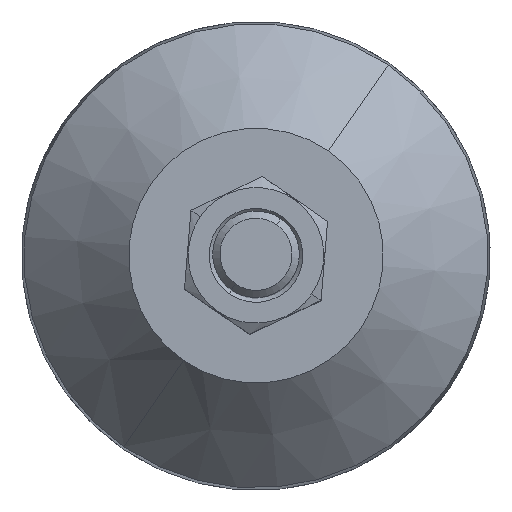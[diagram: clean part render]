
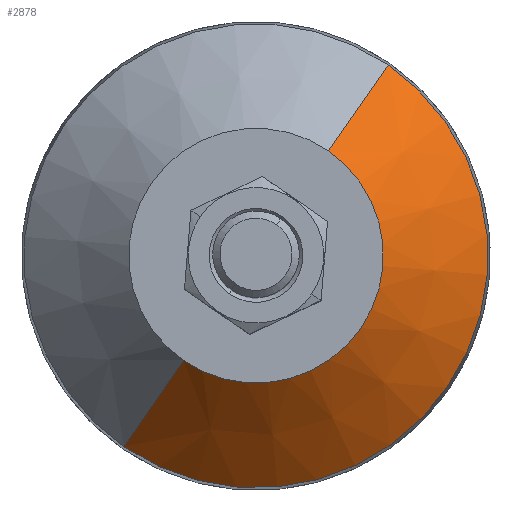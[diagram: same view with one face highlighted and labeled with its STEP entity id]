
A CAD part, top view. The second image highlights one B-rep face of the part: STEP entity #2878.
In plain terms, the highlighted conical face has half-angle 45 degrees and reference radius 32.151 mm.
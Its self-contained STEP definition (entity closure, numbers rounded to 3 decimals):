
#209 = ORIENTED_EDGE ( 'NONE', *, *, #2863, .T. ) ;
#304 = AXIS2_PLACEMENT_3D ( 'NONE', #1238, #3255, #1510 ) ;
#496 = CIRCLE ( 'NONE', #3430, 32.151 ) ;
#542 = EDGE_CURVE ( 'NONE', #2010, #3343, #496, .T. ) ;
#547 = EDGE_CURVE ( 'NONE', #3629, #2010, #3412, .T. ) ;
#568 = ORIENTED_EDGE ( 'NONE', *, *, #2853, .T. ) ;
#656 = CARTESIAN_POINT ( 'NONE',  ( -18.301, -26.434, 10.081 ) ) ;
#891 = FACE_OUTER_BOUND ( 'NONE', #2426, .T. ) ;
#1070 = VERTEX_POINT ( 'NONE', #2509 ) ;
#1159 = LINE ( 'NONE', #656, #2586 ) ;
#1191 = AXIS2_PLACEMENT_3D ( 'NONE', #3553, #2104, #2384 ) ;
#1207 = ORIENTED_EDGE ( 'NONE', *, *, #542, .F. ) ;
#1238 = CARTESIAN_POINT ( 'NONE',  ( 0., 0., 24.581 ) ) ;
#1359 = DIRECTION ( 'NONE',  ( 0., 0., -1. ) ) ;
#1373 = DIRECTION ( 'NONE',  ( 0.569, 0.822, 0. ) ) ;
#1454 = CARTESIAN_POINT ( 'NONE',  ( 0., 0., 10.081 ) ) ;
#1510 = DIRECTION ( 'NONE',  ( 0.569, 0.822, 0. ) ) ;
#1535 = DIRECTION ( 'NONE',  ( 0.402, 0.581, -0.707 ) ) ;
#1866 = VECTOR ( 'NONE', #1535, 1000. ) ;
#2010 = VERTEX_POINT ( 'NONE', #2476 ) ;
#2104 = DIRECTION ( 'NONE',  ( 0., 0., -1. ) ) ;
#2148 = CARTESIAN_POINT ( 'NONE',  ( -18.301, -26.434, 10.081 ) ) ;
#2198 = CARTESIAN_POINT ( 'NONE',  ( 10.047, 14.512, 24.581 ) ) ;
#2336 = DIRECTION ( 'NONE',  ( -0.402, -0.581, -0.707 ) ) ;
#2384 = DIRECTION ( 'NONE',  ( 0.569, 0.822, 0. ) ) ;
#2426 = EDGE_LOOP ( 'NONE', ( #209, #568, #1207, #3327 ) ) ;
#2476 = CARTESIAN_POINT ( 'NONE',  ( 18.301, 26.434, 10.081 ) ) ;
#2509 = CARTESIAN_POINT ( 'NONE',  ( -10.047, -14.512, 24.581 ) ) ;
#2586 = VECTOR ( 'NONE', #2336, 1000. ) ;
#2853 = EDGE_CURVE ( 'NONE', #1070, #3343, #1159, .T. ) ;
#2863 = EDGE_CURVE ( 'NONE', #3629, #1070, #3283, .T. ) ;
#2878 = ADVANCED_FACE ( 'NONE', ( #891 ), #3088, .T. ) ;
#3088 = CONICAL_SURFACE ( 'NONE', #1191, 32.151, 0.785 ) ;
#3255 = DIRECTION ( 'NONE',  ( 0., 0., -1. ) ) ;
#3283 = CIRCLE ( 'NONE', #304, 17.651 ) ;
#3327 = ORIENTED_EDGE ( 'NONE', *, *, #547, .F. ) ;
#3343 = VERTEX_POINT ( 'NONE', #2148 ) ;
#3412 = LINE ( 'NONE', #3480, #1866 ) ;
#3430 = AXIS2_PLACEMENT_3D ( 'NONE', #1454, #1359, #1373 ) ;
#3480 = CARTESIAN_POINT ( 'NONE',  ( 18.301, 26.434, 10.081 ) ) ;
#3553 = CARTESIAN_POINT ( 'NONE',  ( 0., 0., 10.081 ) ) ;
#3629 = VERTEX_POINT ( 'NONE', #2198 ) ;
